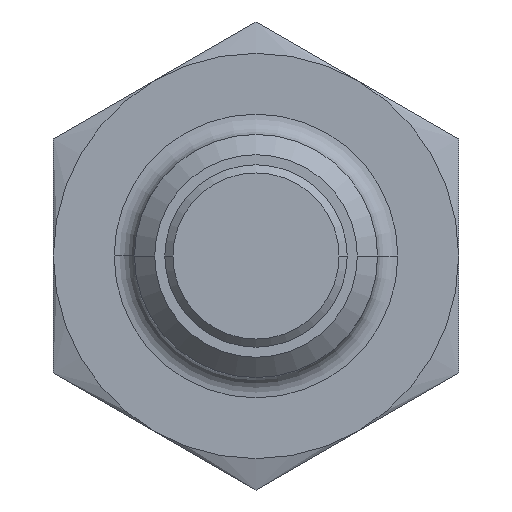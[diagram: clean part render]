
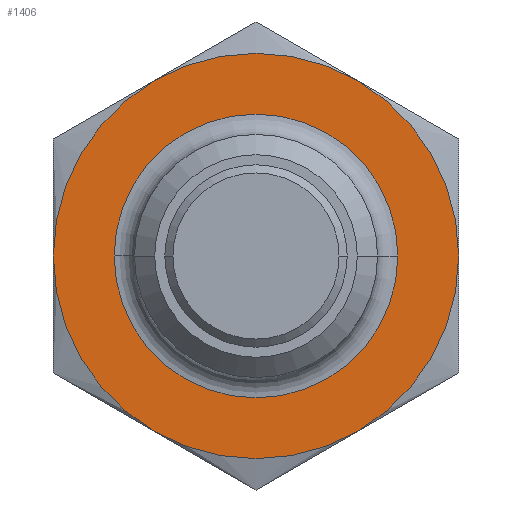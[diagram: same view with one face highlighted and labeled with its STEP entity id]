
A CAD part, front view. The second image highlights one B-rep face of the part: STEP entity #1406.
In plain terms, the highlighted planar face has unit normal (0, -1, 0).
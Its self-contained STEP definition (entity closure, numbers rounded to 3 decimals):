
#132=CARTESIAN_POINT('',(0.,17.,0.));
#133=DIRECTION('',(0.,-1.,0.));
#134=DIRECTION('',(1.,0.,0.));
#135=AXIS2_PLACEMENT_3D('',#132,#133,#134);
#137=CARTESIAN_POINT('',(0.,17.,0.));
#138=DIRECTION('',(0.,-1.,0.));
#139=DIRECTION('',(0.5,0.,-0.866));
#140=AXIS2_PLACEMENT_3D('',#137,#138,#139);
#142=CARTESIAN_POINT('',(0.,17.,0.));
#143=DIRECTION('',(0.,-1.,0.));
#144=DIRECTION('',(-0.5,0.,-0.866));
#145=AXIS2_PLACEMENT_3D('',#142,#143,#144);
#147=CARTESIAN_POINT('',(0.,17.,0.));
#148=DIRECTION('',(0.,-1.,0.));
#149=DIRECTION('',(-1.,0.,0.));
#150=AXIS2_PLACEMENT_3D('',#147,#148,#149);
#152=CARTESIAN_POINT('',(0.,17.,0.));
#153=DIRECTION('',(0.,-1.,0.));
#154=DIRECTION('',(-0.5,0.,0.866));
#155=AXIS2_PLACEMENT_3D('',#152,#153,#154);
#157=CARTESIAN_POINT('',(0.,17.,0.));
#158=DIRECTION('',(0.,-1.,0.));
#159=DIRECTION('',(0.5,0.,0.866));
#160=AXIS2_PLACEMENT_3D('',#157,#158,#159);
#162=CARTESIAN_POINT('',(0.,17.,0.));
#163=DIRECTION('',(0.,-1.,0.));
#164=DIRECTION('',(1.,0.,0.));
#165=AXIS2_PLACEMENT_3D('',#162,#163,#164);
#167=CARTESIAN_POINT('',(0.,17.,0.));
#168=DIRECTION('',(0.,-1.,0.));
#169=DIRECTION('',(-1.,0.,0.));
#170=AXIS2_PLACEMENT_3D('',#167,#168,#169);
#969=CARTESIAN_POINT('',(5.,17.,0.));
#970=CARTESIAN_POINT('',(2.5,17.,4.33));
#971=VERTEX_POINT('',#969);
#972=VERTEX_POINT('',#970);
#973=CARTESIAN_POINT('',(-2.5,17.,4.33));
#974=VERTEX_POINT('',#973);
#975=CARTESIAN_POINT('',(-5.,17.,0.));
#976=VERTEX_POINT('',#975);
#977=CARTESIAN_POINT('',(-2.5,17.,-4.33));
#978=VERTEX_POINT('',#977);
#979=CARTESIAN_POINT('',(2.5,17.,-4.33));
#980=VERTEX_POINT('',#979);
#1001=CARTESIAN_POINT('',(3.5,17.,0.));
#1002=CARTESIAN_POINT('',(-3.5,17.,0.));
#1003=VERTEX_POINT('',#1001);
#1004=VERTEX_POINT('',#1002);
#1382=CARTESIAN_POINT('',(0.,17.,0.));
#1383=DIRECTION('',(0.,-1.,0.));
#1384=DIRECTION('',(-1.,0.,0.));
#1385=AXIS2_PLACEMENT_3D('',#1382,#1383,#1384);
#1386=PLANE('',#1385);
#1388=ORIENTED_EDGE('',*,*,#1387,.F.);
#1390=ORIENTED_EDGE('',*,*,#1389,.F.);
#1392=ORIENTED_EDGE('',*,*,#1391,.F.);
#1394=ORIENTED_EDGE('',*,*,#1393,.F.);
#1396=ORIENTED_EDGE('',*,*,#1395,.F.);
#1398=ORIENTED_EDGE('',*,*,#1397,.F.);
#1399=EDGE_LOOP('',(#1388,#1390,#1392,#1394,#1396,#1398));
#1400=FACE_OUTER_BOUND('',#1399,.F.);
#1402=ORIENTED_EDGE('',*,*,#1401,.T.);
#1403=ORIENTED_EDGE('',*,*,#1360,.T.);
#1404=EDGE_LOOP('',(#1402,#1403));
#1405=FACE_BOUND('',#1404,.F.);
#1406=ADVANCED_FACE('',(#1400,#1405),#1386,.T.);
#136=CIRCLE('',#135,5.);
#141=CIRCLE('',#140,5.);
#146=CIRCLE('',#145,5.);
#151=CIRCLE('',#150,5.);
#156=CIRCLE('',#155,5.);
#161=CIRCLE('',#160,5.);
#166=CIRCLE('',#165,3.5);
#171=CIRCLE('',#170,3.5);
#1360=EDGE_CURVE('',#1004,#1003,#171,.T.);
#1387=EDGE_CURVE('',#971,#972,#136,.T.);
#1389=EDGE_CURVE('',#980,#971,#141,.T.);
#1391=EDGE_CURVE('',#978,#980,#146,.T.);
#1393=EDGE_CURVE('',#976,#978,#151,.T.);
#1395=EDGE_CURVE('',#974,#976,#156,.T.);
#1397=EDGE_CURVE('',#972,#974,#161,.T.);
#1401=EDGE_CURVE('',#1003,#1004,#166,.T.);
